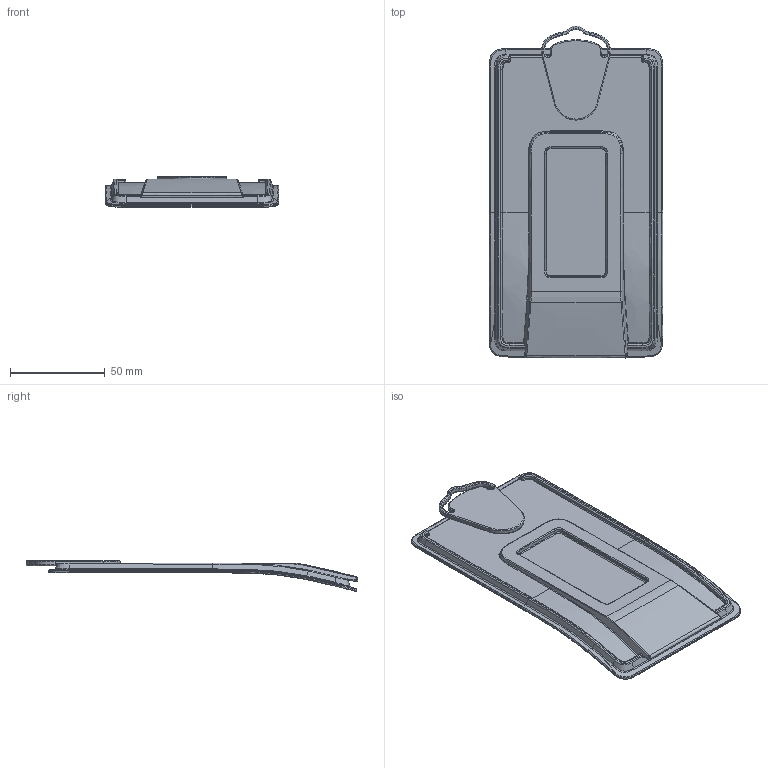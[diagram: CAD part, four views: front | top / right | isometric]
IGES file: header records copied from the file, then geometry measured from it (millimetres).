
Start section: File generated by Shapr3D Version 5.750.0.7750
Global section: file name: /Users/fubintlab/Library/Containers/com.shapr3d.shapr/Data/tmp/export/temp_export; native system: Shapr3D; preprocessor: 5.750.0.7750; date: 241217.114357; units: millimetre
Bounding box: 91.99 x 175.55 x 16.16 mm (x, y, z)
Volume: 57984.6 mm3; surface area: 36774.2 mm2
Topology: 2 solids, 2 shells, 338 faces, 781 edges, 434 vertices
Faces by surface type: bspline 324, plane 14
